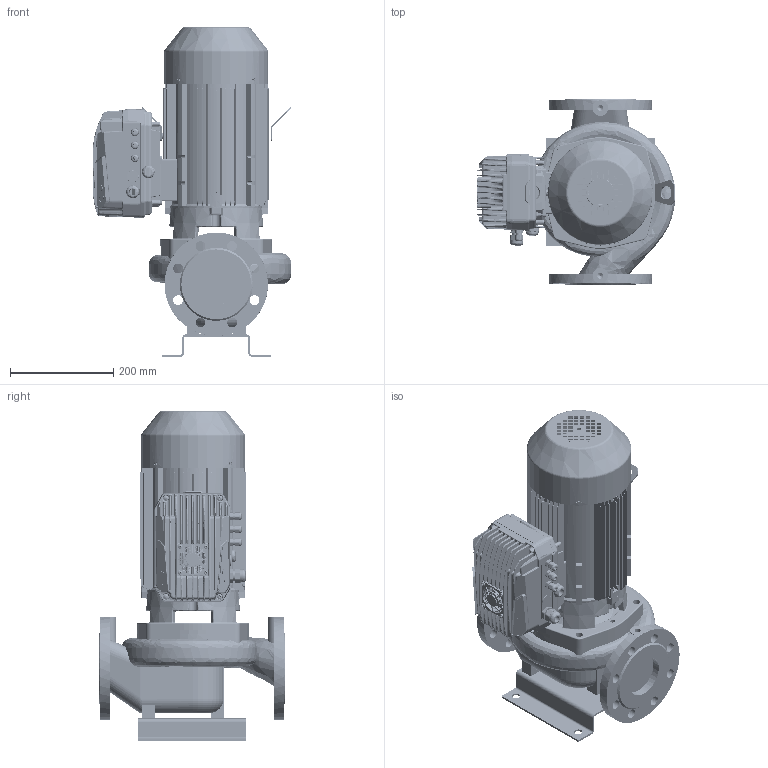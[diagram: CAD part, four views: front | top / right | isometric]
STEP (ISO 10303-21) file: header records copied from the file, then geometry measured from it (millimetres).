
FILE_DESCRIPTION(('STEP AP214'),'1');
FILE_NAME('export.stp','2022-08-29T11:38:20',(' '),(' '),'Spatial InterOp 3D',' ',' ');
FILE_SCHEMA(('AUTOMOTIVE_DESIGN { 1 0 10303 214 1 1 1 1 }'));
Length unit declared in the file: millimetre
Products named in the file (46): V_AdapMida205_407; 210588; DIN_7985-M5X8; W_L80A4MDKP100; V_PPL80A; V_JALKA35973; V_TLL65AB80A1102; 160027; 160005; V_MKP100-2_F19; 160141; 160137; 160138; 160139; 160140; Koura_Ale_M5; Plug_Blind_M20; Sealing_Plug_M20; DIN_7985-M5X12; 160060___; 160059___; 160136; 160134; MIDA_180deg; BASE_MIDA_NASTEC_89; 3005020100_AF0_157; PRT0001; PRT0002; PRT0003; PRT0005; PRT0006; PRT0007; V4-25--_-_U7687_PZ_AF0_5; V4-25--_-_U7687_PZ_AF1_5; V4-25--_-_U7687_PZ_AF2_5; V4-25--_-_U7687_PZ_AF3_5; V5-30--_-_U7687_PZ_AF0_5; V5-30--_-_U7687_PZ_AF1_5; V5-30--_-_U7687_PZ_AF2_5; V5-30--_-_U7687_PZ_5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
Assembly tree (50 placements, depth 4):
  W_L80A4MDKP100
    V_AdapMida205_407
      210588
      DIN_7985-M5X8  x2
    V_PPL80A
    V_JALKA35973
    V_TLL65AB80A1102
    V_MKP100-2_F19
      160027
        160005
      160141
        160137
        160138
        160139
        160140
        Koura_Ale_M5
        Plug_Blind_M20
        Sealing_Plug_M20
        DIN_7985-M5X8
        DIN_7985-M5X12  x4
      160060___
      160059___
      160136
      160134  x2
    Mida205
      MIDA_180deg
        BASE_MIDA_NASTEC_89
        3005020100_AF0_157
        PRT0001
        PRT0002
        PRT0003
        PRT0005
        PRT0006
        PRT0007
        V4-25--_-_U7687_PZ_AF0_5
        V4-25--_-_U7687_PZ_AF1_5
        V4-25--_-_U7687_PZ_AF2_5
        V4-25--_-_U7687_PZ_AF3_5
        V5-30--_-_U7687_PZ_AF0_5
        V5-30--_-_U7687_PZ_AF1_5
        V5-30--_-_U7687_PZ_AF2_5
        V5-30--_-_U7687_PZ_5
        2001300200_32
        TASTIERA_MIDA_2_44
        ETICHETTA_MIDA_9
        TAPPO_PRESSACAVO_M20_5
Bounding box: 384.12 x 360 x 637 mm (x, y, z)
Volume: 8817182.1 mm3; surface area: 2185345.1 mm2
Topology: 43 solids, 45 shells, 6345 faces, 16539 edges, 10274 vertices
Faces by surface type: plane 2314, cylinder 1989, bspline 1372, cone 404, torus 251, sphere 15
Entity records: 321865 total; most frequent: CARTESIAN_POINT 149458, ORIENTED_EDGE 32306, DIRECTION 23400, EDGE_CURVE 16159, VERTEX_POINT 10099, AXIS2_PLACEMENT_3D 8464, EDGE_LOOP 6760, LINE 6472
